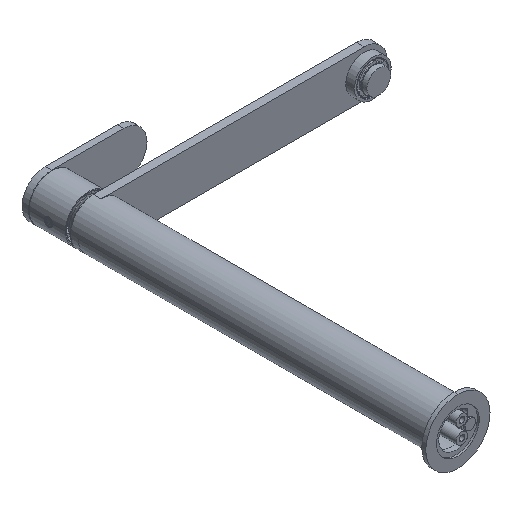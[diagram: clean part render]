
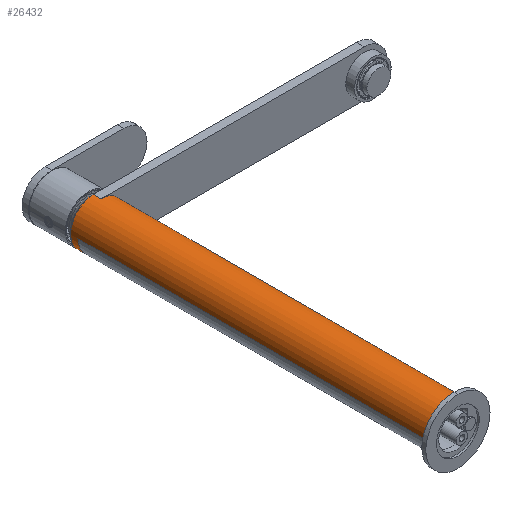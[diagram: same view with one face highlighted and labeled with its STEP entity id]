
A CAD part, isometric view. The second image highlights one B-rep face of the part: STEP entity #26432.
In plain terms, the highlighted cylindrical face has radius 17.5 mm (diameter 35 mm), a partial arc.
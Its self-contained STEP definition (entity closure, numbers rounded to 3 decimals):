
#3342=CARTESIAN_POINT('',(0.,55.7,0.));
#3343=DIRECTION('',(0.,1.,0.));
#3344=DIRECTION('',(0.,0.,-1.));
#3345=AXIS2_PLACEMENT_3D('',#3342,#3343,#3344);
#3370=CARTESIAN_POINT('',(0.,-218.5,0.));
#3371=DIRECTION('',(0.,-1.,0.));
#3372=DIRECTION('',(1.,0.,0.));
#3373=AXIS2_PLACEMENT_3D('',#3370,#3371,#3372);
#3375=DIRECTION('',(0.,1.,0.));
#3376=VECTOR('',#3375,268.2);
#3377=CARTESIAN_POINT('',(-17.5,-218.5,0.));
#3378=LINE('',#3377,#3376);
#3379=CARTESIAN_POINT('',(0.,49.7,0.));
#3380=DIRECTION('',(0.,1.,0.));
#3381=DIRECTION('',(0.,0.,1.));
#3382=AXIS2_PLACEMENT_3D('',#3379,#3380,#3381);
#3384=DIRECTION('',(0.,-1.,0.));
#3385=VECTOR('',#3384,268.2);
#3386=CARTESIAN_POINT('',(17.5,49.7,0.));
#3387=LINE('',#3386,#3385);
#14819=CARTESIAN_POINT('',(0.,49.7,0.));
#14820=DIRECTION('',(0.,1.,0.));
#14821=DIRECTION('',(0.,0.,-1.));
#14822=AXIS2_PLACEMENT_3D('',#14819,#14820,#14821);
#14847=DIRECTION('',(0.,1.,0.));
#14848=VECTOR('',#14847,6.);
#14849=CARTESIAN_POINT('',(0.,49.7,17.5));
#14850=LINE('',#14849,#14848);
#14855=DIRECTION('',(0.,-1.,0.));
#14856=VECTOR('',#14855,6.);
#14857=CARTESIAN_POINT('',(0.,55.7,-17.5));
#14858=LINE('',#14857,#14856);
#19961=CARTESIAN_POINT('',(0.,55.7,-17.5));
#19962=CARTESIAN_POINT('',(0.,55.7,17.5));
#19963=VERTEX_POINT('',#19961);
#19964=VERTEX_POINT('',#19962);
#19997=CARTESIAN_POINT('',(0.,49.7,-17.5));
#19998=CARTESIAN_POINT('',(-17.5,49.7,0.));
#19999=VERTEX_POINT('',#19997);
#20000=VERTEX_POINT('',#19998);
#20001=CARTESIAN_POINT('',(0.,49.7,17.5));
#20002=CARTESIAN_POINT('',(17.5,49.7,0.));
#20003=VERTEX_POINT('',#20001);
#20004=VERTEX_POINT('',#20002);
#22655=CARTESIAN_POINT('',(17.5,-218.5,0.));
#22656=CARTESIAN_POINT('',(-17.5,-218.5,0.));
#22657=VERTEX_POINT('',#22655);
#22658=VERTEX_POINT('',#22656);
#26410=CARTESIAN_POINT('',(0.,-2.485,0.));
#26411=DIRECTION('',(0.,1.,0.));
#26412=DIRECTION('',(1.,0.,0.));
#26413=AXIS2_PLACEMENT_3D('',#26410,#26411,#26412);
#26414=CYLINDRICAL_SURFACE('',#26413,17.5);
#26416=ORIENTED_EDGE('',*,*,#26415,.T.);
#26418=ORIENTED_EDGE('',*,*,#26417,.T.);
#26420=ORIENTED_EDGE('',*,*,#26419,.F.);
#26422=ORIENTED_EDGE('',*,*,#26421,.F.);
#26423=ORIENTED_EDGE('',*,*,#26394,.T.);
#26425=ORIENTED_EDGE('',*,*,#26424,.F.);
#26427=ORIENTED_EDGE('',*,*,#26426,.T.);
#26429=ORIENTED_EDGE('',*,*,#26428,.T.);
#26430=EDGE_LOOP('',(#26416,#26418,#26420,#26422,#26423,#26425,#26427,#26429));
#26431=FACE_OUTER_BOUND('',#26430,.F.);
#26432=ADVANCED_FACE('',(#26431),#26414,.T.);
#3346=CIRCLE('',#3345,17.5);
#3374=CIRCLE('',#3373,17.5);
#3383=CIRCLE('',#3382,17.5);
#14823=CIRCLE('',#14822,17.5);
#26394=EDGE_CURVE('',#19963,#19964,#3346,.T.);
#26415=EDGE_CURVE('',#22657,#22658,#3374,.T.);
#26417=EDGE_CURVE('',#22658,#20000,#3378,.T.);
#26419=EDGE_CURVE('',#19999,#20000,#14823,.T.);
#26421=EDGE_CURVE('',#19963,#19999,#14858,.T.);
#26424=EDGE_CURVE('',#20003,#19964,#14850,.T.);
#26426=EDGE_CURVE('',#20003,#20004,#3383,.T.);
#26428=EDGE_CURVE('',#20004,#22657,#3387,.T.);
